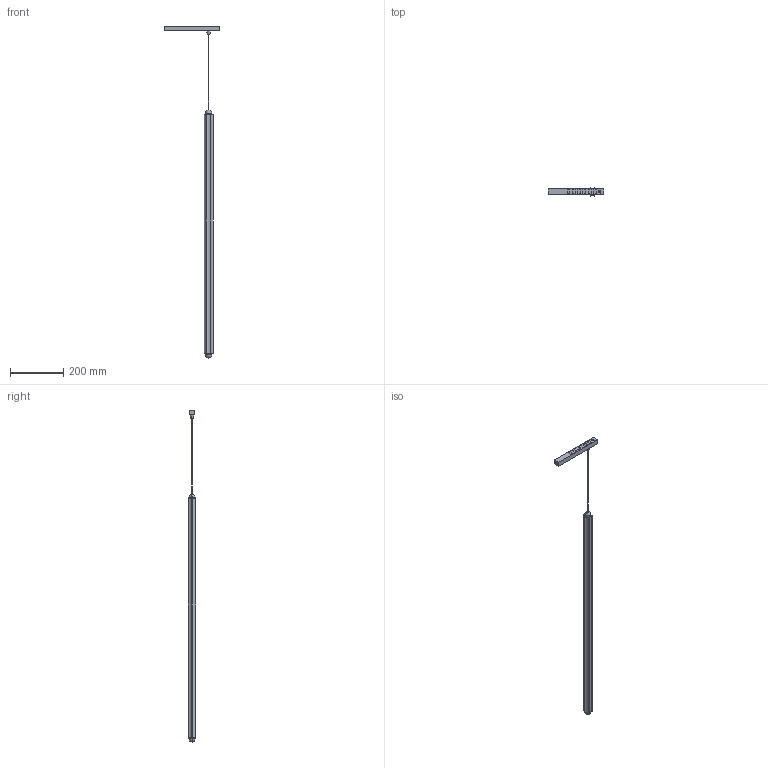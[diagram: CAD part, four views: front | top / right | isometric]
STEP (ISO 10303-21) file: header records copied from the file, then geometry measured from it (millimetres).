
FILE_DESCRIPTION(/* description */ (''),/* implementation_level */ '2;1');
FILE_NAME(/* name */ '64662141D_3d',/* time_stamp */ '2026-05-12T08:56:06+02:00',/* author */ (''),/* organization */ (''),/* preprocessor_version */ 'ST-DEVELOPER v19.2',/* originating_system */ 'Rhino 8.30',/* authorisation */ '');
FILE_SCHEMA (('CONFIG_CONTROL_DESIGN'));
Length unit declared in the file: millimetre
Products named in the file (1): Document
Bounding box: 209 x 29.26 x 1250.26 mm (x, y, z)
Volume: 337434 mm3; surface area: 170069.6 mm2
Topology: 4 solids, 54 shells, 137 faces, 477 edges, 386 vertices
Faces by surface type: cylinder 66, plane 65, bspline 6
Entity records: 5929 total; most frequent: CARTESIAN_POINT 2321, ORIENTED_EDGE 710, EDGE_CURVE 473, DIRECTION 399, VERTEX_POINT 386, B_SPLINE_CURVE_WITH_KNOTS 335, AXIS2_PLACEMENT_3D 265, EDGE_LOOP 158
